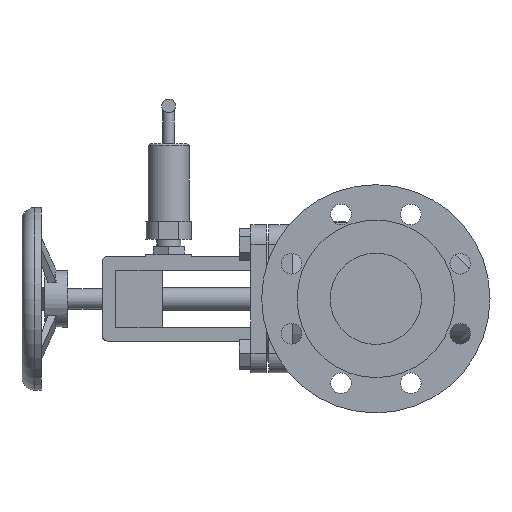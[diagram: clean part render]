
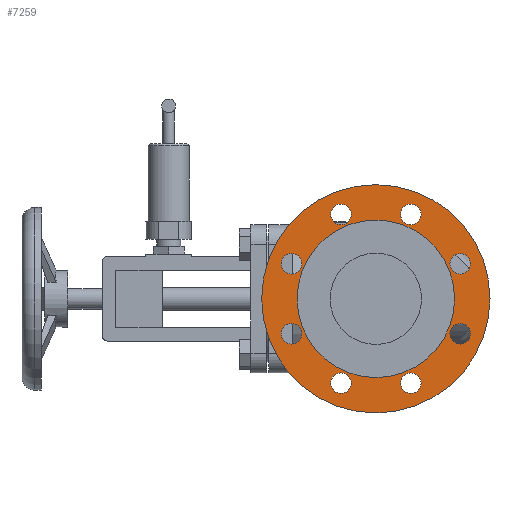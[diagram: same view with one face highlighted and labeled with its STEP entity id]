
A CAD part, left-side view. The second image highlights one B-rep face of the part: STEP entity #7259.
In plain terms, the highlighted planar face has unit normal (-1, 0, 0).
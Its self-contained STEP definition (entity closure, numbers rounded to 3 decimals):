
#334=PLANE('',#7717);
#401=FACE_BOUND('',#1392,.T.);
#402=FACE_BOUND('',#1393,.T.);
#403=FACE_BOUND('',#1394,.T.);
#404=FACE_BOUND('',#1395,.T.);
#405=FACE_BOUND('',#1396,.T.);
#406=FACE_BOUND('',#1397,.T.);
#407=FACE_BOUND('',#1398,.T.);
#408=FACE_BOUND('',#1399,.T.);
#409=FACE_BOUND('',#1400,.T.);
#961=FACE_OUTER_BOUND('',#1391,.T.);
#1391=EDGE_LOOP('',(#6372));
#1392=EDGE_LOOP('',(#6373));
#1393=EDGE_LOOP('',(#6374));
#1394=EDGE_LOOP('',(#6375));
#1395=EDGE_LOOP('',(#6376));
#1396=EDGE_LOOP('',(#6377));
#1397=EDGE_LOOP('',(#6378));
#1398=EDGE_LOOP('',(#6379));
#1399=EDGE_LOOP('',(#6380));
#1400=EDGE_LOOP('',(#6381));
#2844=CIRCLE('',#7626,100.);
#2847=CIRCLE('',#7630,9.);
#2849=CIRCLE('',#7633,9.);
#2851=CIRCLE('',#7636,9.);
#2853=CIRCLE('',#7639,9.);
#2855=CIRCLE('',#7642,9.);
#2857=CIRCLE('',#7645,9.);
#2859=CIRCLE('',#7648,9.);
#2861=CIRCLE('',#7651,9.);
#2862=CIRCLE('',#7653,69.);
#3430=VERTEX_POINT('',#12415);
#3433=VERTEX_POINT('',#12423);
#3435=VERTEX_POINT('',#12429);
#3437=VERTEX_POINT('',#12435);
#3439=VERTEX_POINT('',#12441);
#3441=VERTEX_POINT('',#12447);
#3443=VERTEX_POINT('',#12453);
#3445=VERTEX_POINT('',#12459);
#3447=VERTEX_POINT('',#12465);
#3448=VERTEX_POINT('',#12469);
#4353=EDGE_CURVE('',#3430,#3430,#2844,.T.);
#4358=EDGE_CURVE('',#3433,#3433,#2847,.T.);
#4361=EDGE_CURVE('',#3435,#3435,#2849,.T.);
#4364=EDGE_CURVE('',#3437,#3437,#2851,.T.);
#4367=EDGE_CURVE('',#3439,#3439,#2853,.T.);
#4370=EDGE_CURVE('',#3441,#3441,#2855,.T.);
#4373=EDGE_CURVE('',#3443,#3443,#2857,.T.);
#4376=EDGE_CURVE('',#3445,#3445,#2859,.T.);
#4379=EDGE_CURVE('',#3447,#3447,#2861,.T.);
#4380=EDGE_CURVE('',#3448,#3448,#2862,.T.);
#6372=ORIENTED_EDGE('',*,*,#4353,.F.);
#6373=ORIENTED_EDGE('',*,*,#4361,.F.);
#6374=ORIENTED_EDGE('',*,*,#4364,.F.);
#6375=ORIENTED_EDGE('',*,*,#4367,.F.);
#6376=ORIENTED_EDGE('',*,*,#4370,.F.);
#6377=ORIENTED_EDGE('',*,*,#4373,.F.);
#6378=ORIENTED_EDGE('',*,*,#4376,.F.);
#6379=ORIENTED_EDGE('',*,*,#4379,.F.);
#6380=ORIENTED_EDGE('',*,*,#4358,.F.);
#6381=ORIENTED_EDGE('',*,*,#4380,.F.);
#7259=ADVANCED_FACE('',(#961,#401,#402,#403,#404,#405,#406,#407,#408,#409),
#334,.F.);
#7626=AXIS2_PLACEMENT_3D('',#12416,#8938,#8939);
#7630=AXIS2_PLACEMENT_3D('',#12425,#8948,#8949);
#7633=AXIS2_PLACEMENT_3D('',#12431,#8955,#8956);
#7636=AXIS2_PLACEMENT_3D('',#12437,#8962,#8963);
#7639=AXIS2_PLACEMENT_3D('',#12443,#8969,#8970);
#7642=AXIS2_PLACEMENT_3D('',#12449,#8976,#8977);
#7645=AXIS2_PLACEMENT_3D('',#12455,#8983,#8984);
#7648=AXIS2_PLACEMENT_3D('',#12461,#8990,#8991);
#7651=AXIS2_PLACEMENT_3D('',#12467,#8997,#8998);
#7653=AXIS2_PLACEMENT_3D('',#12470,#9001,#9002);
#7717=AXIS2_PLACEMENT_3D('',#12702,#9224,#9225);
#8938=DIRECTION('center_axis',(1.,0.,0.));
#8939=DIRECTION('ref_axis',(0.,0.,-1.));
#8948=DIRECTION('center_axis',(-1.,0.,0.));
#8949=DIRECTION('ref_axis',(0.,0.,-1.));
#8955=DIRECTION('center_axis',(-1.,0.,0.));
#8956=DIRECTION('ref_axis',(0.,0.,-1.));
#8962=DIRECTION('center_axis',(-1.,0.,0.));
#8963=DIRECTION('ref_axis',(0.,0.,-1.));
#8969=DIRECTION('center_axis',(-1.,0.,0.));
#8970=DIRECTION('ref_axis',(0.,0.,-1.));
#8976=DIRECTION('center_axis',(-1.,0.,0.));
#8977=DIRECTION('ref_axis',(0.,0.,-1.));
#8983=DIRECTION('center_axis',(-1.,0.,0.));
#8984=DIRECTION('ref_axis',(0.,0.,-1.));
#8990=DIRECTION('center_axis',(-1.,0.,0.));
#8991=DIRECTION('ref_axis',(0.,0.,-1.));
#8997=DIRECTION('center_axis',(-1.,0.,0.));
#8998=DIRECTION('ref_axis',(0.,0.,-1.));
#9001=DIRECTION('center_axis',(-1.,0.,0.));
#9002=DIRECTION('ref_axis',(0.,1.,0.));
#9224=DIRECTION('center_axis',(1.,0.,0.));
#9225=DIRECTION('ref_axis',(0.,0.,-1.));
#12415=CARTESIAN_POINT('',(-190.953,-132.469,62.5));
#12416=CARTESIAN_POINT('Origin',(-190.953,-132.469,-37.5));
#12423=CARTESIAN_POINT('',(-190.953,-101.854,-102.41));
#12425=CARTESIAN_POINT('Origin',(-190.953,-101.854,-111.41));
#12429=CARTESIAN_POINT('',(-190.953,-163.083,-102.41));
#12431=CARTESIAN_POINT('Origin',(-190.953,-163.083,-111.41));
#12435=CARTESIAN_POINT('',(-190.953,-58.558,-59.115));
#12437=CARTESIAN_POINT('Origin',(-190.953,-58.558,-68.115));
#12441=CARTESIAN_POINT('',(-190.953,-206.379,-59.115));
#12443=CARTESIAN_POINT('Origin',(-190.953,-206.379,-68.115));
#12447=CARTESIAN_POINT('',(-190.953,-58.558,2.115));
#12449=CARTESIAN_POINT('Origin',(-190.953,-58.558,-6.885));
#12453=CARTESIAN_POINT('',(-190.953,-206.379,2.115));
#12455=CARTESIAN_POINT('Origin',(-190.953,-206.379,-6.885));
#12459=CARTESIAN_POINT('',(-190.953,-101.854,45.41));
#12461=CARTESIAN_POINT('Origin',(-190.953,-101.854,36.41));
#12465=CARTESIAN_POINT('',(-190.953,-163.083,45.41));
#12467=CARTESIAN_POINT('Origin',(-190.953,-163.083,36.41));
#12469=CARTESIAN_POINT('',(-190.953,-201.469,-37.5));
#12470=CARTESIAN_POINT('Origin',(-190.953,-132.469,-37.5));
#12702=CARTESIAN_POINT('Origin',(-190.953,-47.969,-37.5));
